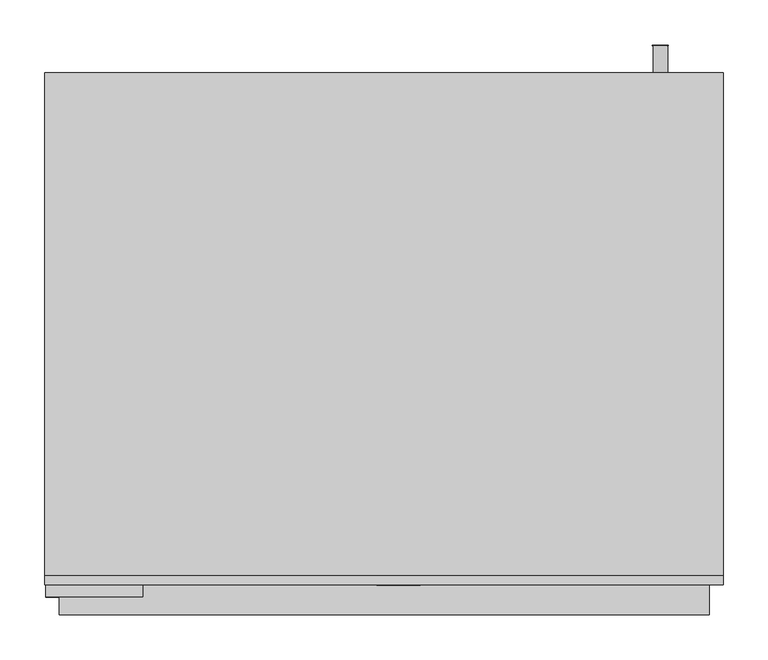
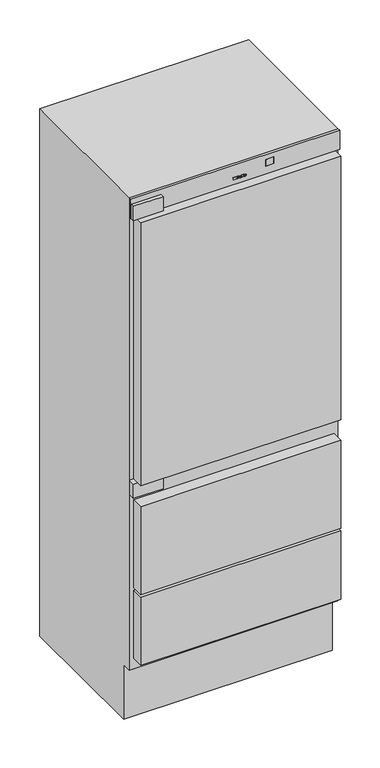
"""IFC4 building model written with IfcOpenShell, lengths in millimetres: proxy geometry, 12153760_USA_KFN9859iDE_LI : 38985952_USA_12153760_KFN9859iDE_LI."""

from ifc_helpers import new_model, si_unit, point, frame, frame_2d, origin, origin_with_axes, place, context, project, spatial, polyline, circle_curve, ellipse_curve, trimmed, segment, composite_curve, outline, extrude, faceted_brep, source, transform, mapped, element, save
from ifc_brep_helpers import plane_surface, cylinder_surface, revolved_surface, extruded_surface, advanced_brep


def specialty_equipment_bac7a8fd(model_context):
    return source(origin(), model_context, "Body", "SolidModel", [
        advanced_brep(
        [(34.992016, 32.7, 1972.9334815), (34.992016, 32.7, 1973.7414815), (40.344016, 32.7, 1973.7414815), (31.032016, 32.7, 1973.7414815), (33.232016, 32.7, 1971.0374815), (40.208016, 32.7, 1972.9334815), (37.792016, 32.7, 1972.9334815), (35.888016, 32.7, 1972.0374815), (34.992016, 32.7, 1974.7654815), (34.992016, 32.7, 1975.6374815), (36.360016, 32.7, 1975.6374815), (36.360016, 32.7, 1974.7654815), (34.992016, 33.7, 1972.9334815), (35.888016, 33.7, 1972.0374815), (37.792016, 33.7, 1972.9334815), (40.208016, 33.7, 1972.9334815), (33.232016, 33.7, 1971.0374815), (31.032016, 33.7, 1973.7414815), (40.344016, 33.7, 1973.7414815), (34.992016, 33.7, 1973.7414815), (34.992016, 33.7, 1974.7654815), (36.360016, 33.7, 1974.7654815), (36.360016, 33.7, 1975.6374815), (34.992016, 33.7, 1975.6374815)],
        [
            (0, 1),
            (1, 2),
            (2, 3, ellipse_curve(frame((35.688016, 32.7, 1973.7414815), z_axis=(0.0, -1.0, 0.0), x_axis=(-1.0, 0.0, 0.0)), 4.656, 3.848)),
            (3, 4, circle_curve(frame((34.1280596, 32.7, 1974.0134815), z_axis=(0.0, -1.0, 0.0), x_axis=(0.0, 0.0, -1.0)), 3.1079688)),
            (4, 5, circle_curve(frame((35.5948096, 32.7, 1976.1254815), z_axis=(0.0, -1.0, 0.0), x_axis=(0.0, 0.0, -1.0)), 5.6098607)),
            (5, 6),
            (6, 7, circle_curve(frame((36.2790748, 32.7, 1973.6774815), z_axis=(0.0, 1.0, 0.0), x_axis=(0.0, 0.0, -1.0)), 1.6859795)),
            (7, 0, circle_curve(frame((35.888016, 32.7, 1972.9334815), z_axis=(0.0, 1.0, 0.0), x_axis=(0.0, 0.0, -1.0)), 0.896)),
            (8, 9),
            (9, 10, circle_curve(frame((35.676016, 32.7, 1975.6374815), z_axis=(0.0, 1.0, 0.0), x_axis=(0.0, 0.0, -1.0)), 0.684)),
            (10, 11),
            (11, 8),
            (12, 13, circle_curve(frame((35.888016, 33.7, 1972.9334815), z_axis=(0.0, -1.0, 0.0), x_axis=(0.0, 0.0, -1.0)), 0.896)),
            (13, 14, circle_curve(frame((36.2790748, 33.7, 1973.6774815), z_axis=(0.0, -1.0, 0.0), x_axis=(0.0, 0.0, -1.0)), 1.6859795)),
            (14, 15),
            (15, 16, circle_curve(frame((35.5948096, 33.7, 1976.1254815), z_axis=(0.0, 1.0, 0.0), x_axis=(0.0, 0.0, -1.0)), 5.6098607)),
            (16, 17, circle_curve(frame((34.1280596, 33.7, 1974.0134815), z_axis=(0.0, 1.0, 0.0), x_axis=(0.0, 0.0, -1.0)), 3.1079688)),
            (17, 18, ellipse_curve(frame((35.688016, 33.7, 1973.7414815), z_axis=(0.0, 1.0, 0.0), x_axis=(-1.0, 0.0, 0.0)), 4.656, 3.848)),
            (18, 19),
            (19, 12),
            (20, 21),
            (21, 22),
            (22, 23, circle_curve(frame((35.676016, 33.7, 1975.6374815), z_axis=(0.0, -1.0, 0.0), x_axis=(0.0, 0.0, -1.0)), 0.684)),
            (23, 20),
            (0, 12),
            (19, 1),
            (18, 2),
            (5, 15),
            (14, 6),
            (17, 3),
            (13, 7),
            (16, 4),
            (8, 20),
            (23, 9),
            (22, 10),
            (21, 11),
        ],
        [
            plane_surface(frame((34.992016, 32.7, 1973.7414815), z_axis=(0.0, -1.0, 0.0), x_axis=(0.0, 0.0, 1.0))),
            plane_surface(frame((34.992016, 33.7, 1973.7414815), z_axis=(0.0, 1.0, 0.0), x_axis=(0.0, 0.0, -1.0))),
            plane_surface(frame((34.992016, 32.7, 1972.9334815), z_axis=(1.0, 0.0, 0.0), x_axis=(0.0, 1.0, 0.0))),
            plane_surface(frame((34.992016, 32.7, 1973.7414815), z_axis=(0.0, 0.0, -1.0), x_axis=(0.0, 1.0, 0.0))),
            plane_surface(frame((40.208016, 32.7, 1972.9334815), z_axis=(0.0, 0.0, 1.0), x_axis=(0.0, 1.0, 0.0))),
            extruded_surface(trimmed(ellipse_curve(frame((35.688016, 34.7, 1973.7414815), z_axis=(0.0, -1.0, 0.0), x_axis=(-1.0, 0.0, 0.0)), 4.656, 3.848), [point((40.344016, 34.7, 1973.7414815))], [point((31.032016, 34.7, 1973.7414815))], True, "CARTESIAN"), (0.0, -1.0, 0.0), 1.0),
            revolved_surface(polyline([(36.2790748, 33.7, 1971.991502), (36.2790748, 32.7, 1971.991502)]), (36.2790748, 33.7, 1973.6774815), (0.0, 1.0, 0.0)),
            revolved_surface(polyline([(35.888016, 33.7, 1972.0374815), (35.888016, 32.7, 1972.0374815)]), (35.888016, 33.7, 1972.9334815), (0.0, 1.0, 0.0)),
            cylinder_surface(frame((34.1280596, 33.7, 1974.0134815), z_axis=(0.0, -1.0, 0.0), x_axis=(0.0, 0.0, -1.0)), 3.1079688),
            cylinder_surface(frame((35.5948096, 33.7, 1976.1254815), z_axis=(0.0, -1.0, 0.0), x_axis=(0.0, 0.0, -1.0)), 5.6098607),
            plane_surface(frame((34.992016, 32.7, 1974.7654815), z_axis=(1.0, 0.0, 0.0), x_axis=(0.0, 1.0, 0.0))),
            revolved_surface(polyline([(35.676016, 33.7, 1974.9534815), (35.676016, 32.7, 1974.9534815)]), (35.676016, 33.7, 1975.6374815), (0.0, 1.0, 0.0)),
            plane_surface(frame((36.360016, 32.7, 1975.6374815), z_axis=(-1.0, 0.0, 0.0), x_axis=(0.0, 1.0, 0.0))),
            plane_surface(frame((36.360016, 32.7, 1974.7654815), z_axis=(0.0, 0.0, 1.0), x_axis=(0.0, 1.0, 0.0))),
        ],
        [
            (0, [[1, 2, 3, 4, 5, 6, 7, 8], [9, 10, 11, 12]]),
            (1, [[13, 14, 15, 16, 17, 18, 19, 20], [21, 22, 23, 24]]),
            (2, [[-1, 25, -20, 26]]),
            (3, [[-2, -26, -19, 27]]),
            (4, [[-6, 28, -15, 29]]),
            (5, [[-3, -27, -18, 30]]),
            (6, [[-7, -29, -14, 31]]),
            (7, [[-8, -31, -13, -25]]),
            (8, [[-4, -30, -17, 32]]),
            (9, [[-5, -32, -16, -28]]),
            (10, [[-9, 33, -24, 34]]),
            (11, [[-10, -34, -23, 35]]),
            (12, [[-11, -35, -22, 36]]),
            (13, [[-12, -36, -21, -33]]),
        ],
    ),
        advanced_brep(
        [(18.296016, 32.7, 1972.9334815), (18.296016, 32.7, 1973.7414815), (23.648016, 32.7, 1973.7414815), (14.336016, 32.7, 1973.7414815), (16.536016, 32.7, 1971.0374815), (23.512016, 32.7, 1972.9334815), (21.096016, 32.7, 1972.9334815), (19.192016, 32.7, 1972.0374815), (18.296016, 32.7, 1974.7654815), (18.296016, 32.7, 1975.6374815), (19.664016, 32.7, 1975.6374815), (19.664016, 32.7, 1974.7654815), (18.296016, 33.7, 1972.9334815), (19.192016, 33.7, 1972.0374815), (21.096016, 33.7, 1972.9334815), (23.512016, 33.7, 1972.9334815), (16.536016, 33.7, 1971.0374815), (14.336016, 33.7, 1973.7414815), (23.648016, 33.7, 1973.7414815), (18.296016, 33.7, 1973.7414815), (18.296016, 33.7, 1974.7654815), (19.664016, 33.7, 1974.7654815), (19.664016, 33.7, 1975.6374815), (18.296016, 33.7, 1975.6374815)],
        [
            (0, 1),
            (1, 2),
            (2, 3, ellipse_curve(frame((18.992016, 32.7, 1973.7414815), z_axis=(0.0, -1.0, 0.0), x_axis=(-1.0, 0.0, 0.0)), 4.656, 3.848)),
            (3, 4, circle_curve(frame((17.4320596, 32.7, 1974.0134815), z_axis=(0.0, -1.0, 0.0), x_axis=(0.0, 0.0, -1.0)), 3.1079688)),
            (4, 5, circle_curve(frame((18.8988096, 32.7, 1976.1254815), z_axis=(0.0, -1.0, 0.0), x_axis=(0.0, 0.0, -1.0)), 5.6098607)),
            (5, 6),
            (6, 7, circle_curve(frame((19.5830748, 32.7, 1973.6774815), z_axis=(0.0, 1.0, 0.0), x_axis=(0.0, 0.0, -1.0)), 1.6859795)),
            (7, 0, circle_curve(frame((19.192016, 32.7, 1972.9334815), z_axis=(0.0, 1.0, 0.0), x_axis=(0.0, 0.0, -1.0)), 0.896)),
            (8, 9),
            (9, 10, circle_curve(frame((18.980016, 32.7, 1975.6374815), z_axis=(0.0, 1.0, 0.0), x_axis=(0.0, 0.0, -1.0)), 0.684)),
            (10, 11),
            (11, 8),
            (12, 13, circle_curve(frame((19.192016, 33.7, 1972.9334815), z_axis=(0.0, -1.0, 0.0), x_axis=(0.0, 0.0, -1.0)), 0.896)),
            (13, 14, circle_curve(frame((19.5830748, 33.7, 1973.6774815), z_axis=(0.0, -1.0, 0.0), x_axis=(0.0, 0.0, -1.0)), 1.6859795)),
            (14, 15),
            (15, 16, circle_curve(frame((18.8988096, 33.7, 1976.1254815), z_axis=(0.0, 1.0, 0.0), x_axis=(0.0, 0.0, -1.0)), 5.6098607)),
            (16, 17, circle_curve(frame((17.4320596, 33.7, 1974.0134815), z_axis=(0.0, 1.0, 0.0), x_axis=(0.0, 0.0, -1.0)), 3.1079688)),
            (17, 18, ellipse_curve(frame((18.992016, 33.7, 1973.7414815), z_axis=(0.0, 1.0, 0.0), x_axis=(-1.0, 0.0, 0.0)), 4.656, 3.848)),
            (18, 19),
            (19, 12),
            (20, 21),
            (21, 22),
            (22, 23, circle_curve(frame((18.980016, 33.7, 1975.6374815), z_axis=(0.0, -1.0, 0.0), x_axis=(0.0, 0.0, -1.0)), 0.684)),
            (23, 20),
            (0, 12),
            (19, 1),
            (18, 2),
            (5, 15),
            (14, 6),
            (17, 3),
            (13, 7),
            (16, 4),
            (8, 20),
            (23, 9),
            (22, 10),
            (21, 11),
        ],
        [
            plane_surface(frame((18.296016, 32.7, 1973.7414815), z_axis=(0.0, -1.0, 0.0), x_axis=(0.0, 0.0, 1.0))),
            plane_surface(frame((18.296016, 33.7, 1973.7414815), z_axis=(0.0, 1.0, 0.0), x_axis=(0.0, 0.0, -1.0))),
            plane_surface(frame((18.296016, 32.7, 1972.9334815), z_axis=(1.0, 0.0, 0.0), x_axis=(0.0, 1.0, 0.0))),
            plane_surface(frame((18.296016, 32.7, 1973.7414815), z_axis=(0.0, 0.0, -1.0), x_axis=(0.0, 1.0, 0.0))),
            plane_surface(frame((23.512016, 32.7, 1972.9334815), z_axis=(0.0, 0.0, 1.0), x_axis=(0.0, 1.0, 0.0))),
            extruded_surface(trimmed(ellipse_curve(frame((18.992016, 34.7, 1973.7414815), z_axis=(0.0, -1.0, 0.0), x_axis=(-1.0, 0.0, 0.0)), 4.656, 3.848), [point((23.648016, 34.7, 1973.7414815))], [point((14.336016, 34.7, 1973.7414815))], True, "CARTESIAN"), (0.0, -1.0, 0.0), 1.0),
            revolved_surface(polyline([(19.5830748, 33.7, 1971.991502), (19.5830748, 32.7, 1971.991502)]), (19.5830748, 33.7, 1973.6774815), (0.0, 1.0, 0.0)),
            revolved_surface(polyline([(19.192016, 33.7, 1972.0374815), (19.192016, 32.7, 1972.0374815)]), (19.192016, 33.7, 1972.9334815), (0.0, 1.0, 0.0)),
            cylinder_surface(frame((17.4320596, 33.7, 1974.0134815), z_axis=(0.0, -1.0, 0.0), x_axis=(0.0, 0.0, -1.0)), 3.1079688),
            cylinder_surface(frame((18.8988096, 33.7, 1976.1254815), z_axis=(0.0, -1.0, 0.0), x_axis=(0.0, 0.0, -1.0)), 5.6098607),
            plane_surface(frame((18.296016, 32.7, 1974.7654815), z_axis=(1.0, 0.0, 0.0), x_axis=(0.0, 1.0, 0.0))),
            revolved_surface(polyline([(18.980016, 33.7, 1974.9534815), (18.980016, 32.7, 1974.9534815)]), (18.980016, 33.7, 1975.6374815), (0.0, 1.0, 0.0)),
            plane_surface(frame((19.664016, 32.7, 1975.6374815), z_axis=(-1.0, 0.0, 0.0), x_axis=(0.0, 1.0, 0.0))),
            plane_surface(frame((19.664016, 32.7, 1974.7654815), z_axis=(0.0, 0.0, 1.0), x_axis=(0.0, 1.0, 0.0))),
        ],
        [
            (0, [[1, 2, 3, 4, 5, 6, 7, 8], [9, 10, 11, 12]]),
            (1, [[13, 14, 15, 16, 17, 18, 19, 20], [21, 22, 23, 24]]),
            (2, [[-1, 25, -20, 26]]),
            (3, [[-2, -26, -19, 27]]),
            (4, [[-6, 28, -15, 29]]),
            (5, [[-3, -27, -18, 30]]),
            (6, [[-7, -29, -14, 31]]),
            (7, [[-8, -31, -13, -25]]),
            (8, [[-4, -30, -17, 32]]),
            (9, [[-5, -32, -16, -28]]),
            (10, [[-9, 33, -24, 34]]),
            (11, [[-10, -34, -23, 35]]),
            (12, [[-11, -35, -22, 36]]),
            (13, [[-12, -36, -21, -33]]),
        ],
    ),
        extrude(outline(polyline([(1978.5654815, 9.552016), (1977.2694815, 10.160016), (1978.5334815, 12.872016), (1979.8294815, 12.272016), (1978.5654815, 9.552016)])), frame((0.0, 32.7, 0.0), z_axis=(0.0, 1.0, 0.0), x_axis=(0.0, 0.0, 1.0)), (0.0, 0.0, 1.0), 1.0),
        extrude(outline(polyline([(1977.0934815, 7.576016), (1975.6614815, 7.576016), (1975.6614815, 8.528016), (1972.3814815, 8.528016), (1972.3814815, 7.576016), (1971.0374815, 7.576016), (1971.0374815, 13.888016), (1972.3814815, 13.888016), (1972.3814815, 12.960016), (1977.0934815, 12.960016), (1977.0934815, 7.576016)])), frame((0.0, 32.7, 0.0), z_axis=(0.0, 1.0, 0.0), x_axis=(0.0, 0.0, 1.0)), (0.0, 0.0, 1.0), 1.0),
        extrude(outline(polyline([(1977.7334815, 24.096016), (1977.7334815, 25.056016), (1972.3814815, 25.056016), (1972.3814815, 24.096016), (1971.0374815, 24.096016), (1971.0374815, 30.584016), (1972.3814815, 30.584016), (1972.3814815, 29.600016), (1979.0374815, 29.600016), (1979.0374815, 24.096016), (1977.7334815, 24.096016)])), frame((0.0, 32.7, 0.0), z_axis=(0.0, 1.0, 0.0), x_axis=(0.0, 0.0, 1.0)), (0.0, 0.0, 1.0), 1.0),
        extrude(outline(polyline([(1977.7334815, -8.367984), (1977.7334815, -7.399984), (1972.3814815, -7.399984), (1972.3814815, -8.367984), (1971.0374815, -8.367984), (1971.0374815, -4.847984), (1972.3814815, -4.847984), (1972.3814815, -5.807984), (1975.7846062, -5.807984), (1971.0374815, -2.231984), (1975.8527038, 1.360016), (1972.3814815, 1.360016), (1972.3814815, 0.376016), (1971.0374815, 0.376016), (1971.0374815, 6.760016), (1972.3814815, 6.760016), (1972.3814815, 5.744016), (1977.7334815, 5.744016), (1977.7334815, 6.760016), (1979.0374815, 6.760016), (1979.0374815, 1.888016), (1976.0374815, -0.447984), (1979.0374815, -2.791984), (1979.0374815, -8.367984), (1977.7334815, -8.367984)])), frame((0.0, 32.7, 0.0), z_axis=(0.0, 1.0, 0.0), x_axis=(0.0, 0.0, 1.0)), (0.0, 0.0, 1.0), 1.0),
        extrude(outline(polyline([(139.4871835, 33.7), (110.0, 33.7), (110.0, 37.5506949), (139.4871835, 37.5506949), (139.4871835, 33.7)])), frame((0.0, 0.0, 1982.0373627), z_axis=(0.0, 0.0, 1.0), x_axis=(1.0, 0.0, 0.0)), (0.0, 0.0, 1.0), 24.9197257),
        extrude(outline(composite_curve([segment(polyline([(523.2701201, 5.0), (553.5577305, 5.0)]), True, "CONTINUOUS"), segment(trimmed(circle_curve(frame_2d((538.4139253, 25.6054757)), 25.5718686), [point((553.5577305, 5.0))], [point((523.2701201, 5.0))], False, "CARTESIAN"), True, "CONTINUOUS")], self_intersect=False)), frame((-318.498606, 0.0, 0.0), z_axis=(1.0, 0.0, 0.0), x_axis=(0.0, 1.0, 0.0)), (0.0, 0.0, 1.0), 29.998606),
        extrude(outline(composite_curve([segment(trimmed(circle_curve(frame_2d((171.1316848, 25.5989474)), 25.5733618), [point((186.2868885, 5.0))], [point((155.9764811, 5.0))], False, "CARTESIAN"), True, "CONTINUOUS"), segment(polyline([(155.9764811, 5.0), (186.2868885, 5.0)]), True, "CONTINUOUS")], self_intersect=False)), frame((-318.498606, 0.0, 0.0), z_axis=(1.0, 0.0, 0.0), x_axis=(0.0, 1.0, 0.0)), (0.0, 0.0, 1.0), 29.998606),
        extrude(outline(composite_curve([segment(polyline([(523.4049886, 5.0), (553.608309, 5.0)]), True, "CONTINUOUS"), segment(trimmed(circle_curve(frame_2d((538.5066488, 25.6363835)), 25.5718686), [point((553.608309, 5.0))], [point((523.4049886, 5.0))], False, "CARTESIAN"), True, "CONTINUOUS")], self_intersect=False)), frame((288.5, 0.0, 0.0), z_axis=(1.0, 0.0, 0.0), x_axis=(0.0, 1.0, 0.0)), (0.0, 0.0, 1.0), 29.998606),
        extrude(outline(composite_curve([segment(trimmed(circle_curve(frame_2d((170.983878, 25.7067979)), 25.5732955), [point((185.9912749, 5.0))], [point((155.9764811, 5.0))], False, "CARTESIAN"), True, "CONTINUOUS"), segment(polyline([(155.9764811, 5.0), (185.9912749, 5.0)]), True, "CONTINUOUS")], self_intersect=False)), frame((288.5, 0.0, 0.0), z_axis=(1.0, 0.0, 0.0), x_axis=(0.0, 1.0, 0.0)), (0.0, 0.0, 1.0), 29.998606),
        extrude(outline(composite_curve([segment(trimmed(circle_curve(frame_2d((-344.998553, 111.113054)), 15.0), [point((-359.998553, 111.113054))], [point((-329.998553, 111.113054))], False, "CARTESIAN"), True, "CONTINUOUS"), segment(trimmed(circle_curve(frame_2d((-344.998553, 111.113054)), 15.0), [point((-329.998553, 111.113054))], [point((-359.998553, 111.113054))], False, "CARTESIAN"), True, "CONTINUOUS")], self_intersect=False)), origin_with_axes(), (0.0, 0.0, 1.0), 5.0),
        extrude(outline(composite_curve([segment(trimmed(circle_curve(frame_2d((344.998553, 111.113054)), 15.0), [point((329.998553, 111.113054))], [point((359.998553, 111.113054))], False, "CARTESIAN"), True, "CONTINUOUS"), segment(trimmed(circle_curve(frame_2d((344.998553, 111.113054)), 15.0), [point((359.998553, 111.113054))], [point((329.998553, 111.113054))], False, "CARTESIAN"), True, "CONTINUOUS")], self_intersect=False)), origin_with_axes(), (0.0, 0.0, 1.0), 5.0),
        faceted_brep([(378.5, 605.0, 2026.0), (-378.5, 605.0, 2026.0), (-378.5, 44.0, 2026.0), (378.5, 44.0, 2026.0), (-378.5, 605.0, 5.0), (378.5, 605.0, 5.0), (378.5, 79.0, 5.0), (-378.5, 79.0, 5.0), (-378.5, 79.0, 215.0), (-378.5, 44.0, 215.0), (-264.5, 80.0, 882.0), (-264.5, 80.0, 942.0), (-377.5, 80.0, 942.0), (-377.5, 80.0, 882.0), (-377.5, 44.0, 942.0), (-377.5, 44.0, 882.0), (-264.5, 44.0, 942.0), (-264.5, 44.0, 882.0), (378.5, 44.0, 215.0), (-333.0, 44.0, 1919.0), (333.0, 44.0, 1919.0), (333.0, 44.0, 969.0), (-333.0, 44.0, 969.0), (-333.0, 44.0, 860.0), (333.0, 44.0, 860.0), (333.0, 44.0, 301.0), (-333.0, 44.0, 301.0), (-377.5, 44.0, 2006.0), (-264.5, 44.0, 2006.0), (-264.5, 44.0, 1951.0), (-377.5, 44.0, 1951.0), (378.5, 79.0, 215.0), (333.0, 497.5878677, 1919.0), (-333.0, 497.5878677, 1919.0), (-333.0, 497.5878677, 969.0), (333.0, 497.5878677, 969.0), (333.0, 497.5878677, 860.0), (-333.0, 497.5878677, 860.0), (-333.0, 497.5878677, 301.0), (333.0, 497.5878677, 301.0), (-264.5, 80.0, 2006.0), (-377.5, 80.0, 2006.0), (-377.5, 80.0, 1951.0), (-264.5, 80.0, 1951.0)], [[[0, 1, 2, 3]], [[4, 5, 6, 7]], [[1, 0, 5, 4]], [[2, 1, 4, 7, 8, 9]], [[10, 11, 12, 13]], [[13, 12, 14, 15]], [[12, 11, 16, 14]], [[11, 10, 17, 16]], [[3, 2, 9, 18], [19, 20, 21, 22], [23, 24, 25, 26], [27, 28, 29, 30], [17, 15, 14, 16]], [[0, 3, 18, 31, 6, 5]], [[32, 33, 34, 35]], [[33, 32, 20, 19]], [[34, 33, 19, 22]], [[35, 34, 22, 21]], [[32, 35, 21, 20]], [[31, 8, 7, 6]], [[8, 31, 18, 9]], [[36, 37, 38, 39]], [[37, 36, 24, 23]], [[38, 37, 23, 26]], [[39, 38, 26, 25]], [[36, 39, 25, 24]], [[40, 41, 42, 43]], [[41, 40, 28, 27]], [[42, 41, 27, 30]], [[43, 42, 30, 29]], [[40, 43, 29, 28]], [[10, 13, 15, 17]]]),
        extrude(outline(polyline([(167.0, 306.9931553), (175.0365048, 306.9931553), (175.0365048, 305.9885922), (168.0045631, 305.9885922), (168.0045631, 301.9703398), (167.0, 301.9703398), (167.0, 306.9931553)])), frame((0.0, 635.0, 0.0), z_axis=(0.0, 1.0, 0.0), x_axis=(0.0, 0.0, 1.0)), (0.0, 0.0, 1.0), 1.0),
        extrude(outline(polyline([(167.0, 314.4018082), (175.0365048, 314.4018082), (175.0365048, 308.6255704), (174.0319417, 308.6255704), (174.0319417, 313.3972451), (171.6461043, 313.3972451), (171.6461043, 308.8767112), (170.6415412, 308.8767112), (170.6415412, 313.3972451), (168.0045631, 313.3972451), (168.0045631, 308.5), (167.0, 308.5), (167.0, 314.4018082)])), frame((0.0, 635.0, 0.0), z_axis=(0.0, 1.0, 0.0), x_axis=(0.0, 0.0, 1.0)), (0.0, 0.0, 1.0), 1.0),
        extrude(outline(polyline([(191.0, 308.0663898), (199.0365048, 310.2579854), (199.0365048, 309.2220297), (193.7547004, 307.9506296), (192.1242474, 307.5582221), (193.5663448, 307.1383461), (199.0365048, 305.5451718), (199.0365048, 304.0520614), (195.0712274, 302.8944594), (192.1242474, 302.033125), (193.7076115, 301.6524898), (199.0365048, 300.3693174), (199.0365048, 299.3333617), (191.0, 301.5269194), (191.0, 302.6001538), (197.2000379, 304.5268745), (198.0652963, 304.7956736), (197.0234545, 305.0978273), (191.0, 306.8538507), (191.0, 308.0663898)])), frame((0.0, 635.0, 0.0), z_axis=(0.0, 1.0, 0.0), x_axis=(0.0, 0.0, 1.0)), (0.0, 0.0, 1.0), 1.0),
        extrude(outline(polyline([(191.0, 316.913216), (199.0365048, 316.913216), (199.0365048, 315.9086529), (195.10262, 315.9086529), (199.0365048, 311.7883745), (199.0365048, 310.3835558), (195.732434, 313.8426276), (191.0, 310.2579854), (191.0, 311.4862208), (195.0535691, 314.5548471), (193.7625485, 315.9086529), (191.0, 315.9086529), (191.0, 316.913216)])), frame((0.0, 635.0, 0.0), z_axis=(0.0, 1.0, 0.0), x_axis=(0.0, 0.0, 1.0)), (0.0, 0.0, 1.0), 1.0),
        extrude(outline(composite_curve([segment(trimmed(circle_curve(frame_2d((171.0, 308.5)), 8.0), [point((171.0, 300.5))], [point((171.0, 316.5))], False, "CARTESIAN"), True, "CONTINUOUS"), segment(trimmed(circle_curve(frame_2d((171.0, 308.5)), 8.0), [point((171.0, 316.5))], [point((171.0, 300.5))], False, "CARTESIAN"), True, "CONTINUOUS")], self_intersect=False)), frame((0.0, 605.0, 0.0), z_axis=(0.0, 1.0, 0.0), x_axis=(0.0, 0.0, 1.0)), (0.0, 0.0, 1.0), 30.0),
        extrude(outline(composite_curve([segment(trimmed(circle_curve(frame_2d((195.0, 308.5)), 8.0), [point((195.0, 300.5))], [point((195.0, 316.5))], False, "CARTESIAN"), True, "CONTINUOUS"), segment(trimmed(circle_curve(frame_2d((195.0, 308.5)), 8.0), [point((195.0, 316.5))], [point((195.0, 300.5))], False, "CARTESIAN"), True, "CONTINUOUS")], self_intersect=False)), frame((0.0, 605.0, 0.0), z_axis=(0.0, 1.0, 0.0), x_axis=(0.0, 0.0, 1.0)), (0.0, 0.0, 1.0), 30.0),
        faceted_brep([(378.5, 33.7, 2026.0), (-378.5, 33.7, 2026.0), (-378.5, 33.7, 1952.0), (378.5, 33.7, 1952.0), (110.0, 33.7, 2006.9570884), (139.4871835, 33.7, 2006.9570884), (139.4871835, 33.7, 1982.0373627), (110.0, 33.7, 1982.0373627), (378.5, 44.0, 2026.0), (378.5, 44.0, 1952.0), (-378.5, 44.0, 1952.0), (-378.5, 44.0, 2026.0), (139.4871835, 38.9102145, 2006.9570884), (110.0, 38.9102145, 2006.9570884), (110.0, 38.9102145, 1982.0373627), (139.4871835, 38.9102145, 1982.0373627)], [[[0, 1, 2, 3], [4, 5, 6, 7]], [[8, 9, 10, 11]], [[1, 0, 8, 11]], [[2, 1, 11, 10]], [[3, 2, 10, 9]], [[0, 3, 9, 8]], [[12, 13, 14, 15]], [[13, 12, 5, 4]], [[14, 13, 4, 7]], [[15, 14, 7, 6]], [[12, 15, 6, 5]]]),
        extrude(outline(polyline([(-269.071188, 20.0), (-377.3872053, 20.0), (-377.3872053, 63.0), (-269.071188, 63.0), (-269.071188, 20.0)])), frame((0.0, 0.0, 887.2330293), z_axis=(0.0, 0.0, 1.0), x_axis=(1.0, 0.0, 0.0)), (0.0, 0.0, 1.0), 55.0),
        extrude(outline(polyline([(-269.071188, 20.0), (-377.3872053, 20.0), (-377.3872053, 63.0), (-269.071188, 63.0), (-269.071188, 20.0)])), frame((0.0, 0.0, 1951.5), z_axis=(0.0, 0.0, 1.0), x_axis=(1.0, 0.0, 0.0)), (0.0, 0.0, 1.0), 55.0),
        extrude(outline(polyline([(362.7000389, 0.0), (-362.5, 0.0), (-362.5, 44.0), (362.7000389, 44.0), (362.7000389, 0.0)])), frame((0.0, 0.0, 942.2330293), z_axis=(0.0, 0.0, 1.0), x_axis=(1.0, 0.0, 0.0)), (0.0, 0.0, 1.0), 1009.2669707),
        extrude(outline(polyline([(362.5, 0.0), (-362.5, 0.0), (-362.5, 44.0), (362.5, 44.0), (362.5, 0.0)])), frame((0.0, 0.0, 254.0), z_axis=(0.0, 0.0, 1.0), x_axis=(1.0, 0.0, 0.0)), (0.0, 0.0, 1.0), 262.0),
        extrude(outline(polyline([(362.5, 0.0), (-362.5, 0.0), (-362.5, 44.0), (362.5, 44.0), (362.5, 0.0)])), frame((0.0, 0.0, 525.0), z_axis=(0.0, 0.0, 1.0), x_axis=(1.0, 0.0, 0.0)), (0.0, 0.0, 1.0), 337.5),
    ])


if __name__ == "__main__":
    model = new_model("IFC4")
    model_context = context("Model", 3, world=origin())
    ifc_project = project(units=[si_unit("LENGTHUNIT", "METRE", prefix="MILLI")], contexts=[model_context])
    site = spatial("IfcSite", under=ifc_project)
    building = spatial("IfcBuilding", under=site)
    placement = place(None, origin())
    specialty_equipment_shape = specialty_equipment_bac7a8fd(model_context)
    element("IfcBuildingElementProxy", 1, Name="12153760_USA_KFN9859iDE_LI : 38985952_USA_12153760_KFN9859iDE_LI", ObjectType="12153760_USA_KFN9859iDE_LI : 38985952_USA_12153760_KFN9859iDE_LI", at=placement, inside=building, context=model_context, shape_type="MappedRepresentation", body=[
        mapped(specialty_equipment_shape, transform((0.0, 0.0, 0.0), x_axis=(1.0, 0.0, 0.0), y_axis=(0.0, 1.0, 0.0), z_axis=(0.0, 0.0, 1.0))),
    ])
    save(model, "model.ifc")
